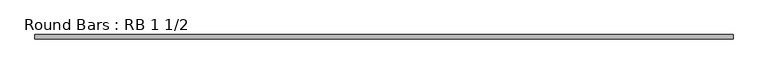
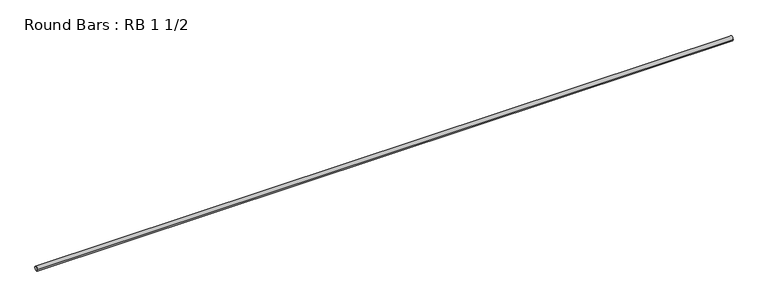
"""IFC4 building model written with IfcOpenShell, lengths in millimetres: member geometry, Round Bars : RB 1 1/2."""

from ifc_helpers import new_model, si_unit, point, frame, origin, origin_2d, place, context, project, spatial, circle_curve, trimmed, segment, composite_curve, outline, extrude, source, transform, mapped, element, save


def round_bars_rb_1_1_2_788aa87a(model_context):
    return source(origin(), model_context, "Body", "SweptSolid", [
        extrude(outline(composite_curve([segment(trimmed(circle_curve(origin_2d(), 19.05), [point((19.05, 0.0))], [point((-19.05, 0.0))], False, "CARTESIAN"), True, "CONTINUOUS"), segment(trimmed(circle_curve(origin_2d(), 19.05), [point((-19.05, 0.0))], [point((19.05, 0.0))], False, "CARTESIAN"), True, "CONTINUOUS")], self_intersect=False)), frame((-2828.9141341, 0.0, 0.0), z_axis=(1.0, 0.0, 0.0), x_axis=(0.0, 1.0, 0.0)), (0.0, 0.0, 1.0), 5936.5751214),
    ])


if __name__ == "__main__":
    model = new_model("IFC4")
    model_context = context("Model", 3, world=origin())
    ifc_project = project(units=[si_unit("LENGTHUNIT", "METRE", prefix="MILLI")], contexts=[model_context])
    site = spatial("IfcSite", under=ifc_project)
    building = spatial("IfcBuilding", under=site)
    placement = place(None, origin())
    round_bars_rb_1_1_2_shape = round_bars_rb_1_1_2_788aa87a(model_context)
    element("IfcMember", 1, ObjectType="Round Bars : RB 1 1/2", at=placement, inside=building, context=model_context, shape_type="MappedRepresentation", body=[
        mapped(round_bars_rb_1_1_2_shape, transform((0.0, 0.0, 0.0), x_axis=(1.0, 0.0, 0.0), y_axis=(0.0, 1.0, 0.0), z_axis=(0.0, 0.0, 1.0))),
    ])
    save(model, "model.ifc")
